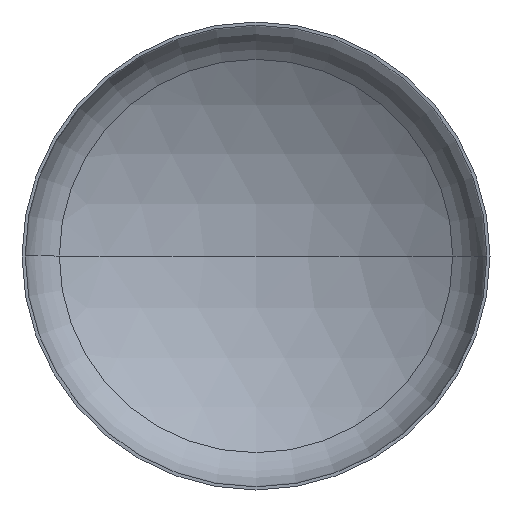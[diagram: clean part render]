
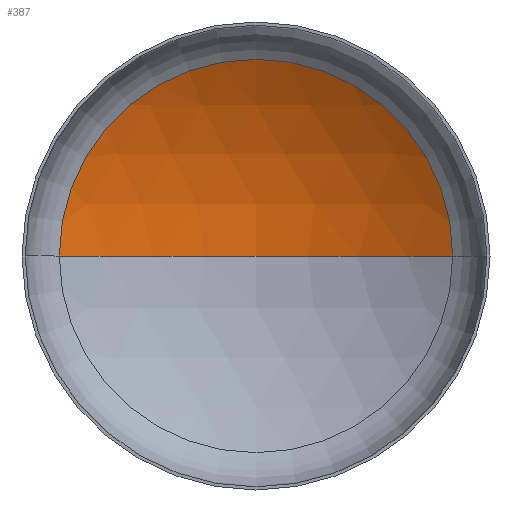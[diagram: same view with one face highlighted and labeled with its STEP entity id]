
A CAD part, front view. The second image highlights one B-rep face of the part: STEP entity #387.
In plain terms, the highlighted spherical face has radius 6400 mm.
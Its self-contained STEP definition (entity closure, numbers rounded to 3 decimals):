
#12 = VERTEX_POINT ( 'NONE', #155 ) ;
#17 = ORIENTED_EDGE ( 'NONE', *, *, #131, .F. ) ;
#58 = VERTEX_POINT ( 'NONE', #358 ) ;
#59 = DIRECTION ( 'NONE',  ( -1., 0., 0. ) ) ;
#70 = AXIS2_PLACEMENT_3D ( 'NONE', #186, #338, #206 ) ;
#74 = AXIS2_PLACEMENT_3D ( 'NONE', #276, #137, #295 ) ;
#79 = AXIS2_PLACEMENT_3D ( 'NONE', #364, #226, #388 ) ;
#93 = ORIENTED_EDGE ( 'NONE', *, *, #125, .T. ) ;
#97 = VERTEX_POINT ( 'NONE', #200 ) ;
#107 = EDGE_LOOP ( 'NONE', ( #17, #110, #93 ) ) ;
#110 = ORIENTED_EDGE ( 'NONE', *, *, #128, .T. ) ;
#125 = EDGE_CURVE ( 'NONE', #58, #97, #277, .T. ) ;
#126 = FACE_OUTER_BOUND ( 'NONE', #107, .T. ) ;
#128 = EDGE_CURVE ( 'NONE', #12, #58, #153, .T. ) ;
#131 = EDGE_CURVE ( 'NONE', #12, #97, #326, .T. ) ;
#137 = DIRECTION ( 'NONE',  ( 0., 0., -1. ) ) ;
#149 = DIRECTION ( 'NONE',  ( 0., 0., -1. ) ) ;
#153 = CIRCLE ( 'NONE', #74, 6400. ) ;
#155 = CARTESIAN_POINT ( 'NONE',  ( 0., 2120.881, 0. ) ) ;
#167 = SPHERICAL_SURFACE ( 'NONE', #362, 6400. ) ;
#186 = CARTESIAN_POINT ( 'NONE',  ( 0., -4279.119, 0. ) ) ;
#200 = CARTESIAN_POINT ( 'NONE',  ( -3362.166, 1166.599, 0. ) ) ;
#206 = DIRECTION ( 'NONE',  ( 1., 0., 0. ) ) ;
#215 = CARTESIAN_POINT ( 'NONE',  ( 0., -4279.119, 0. ) ) ;
#226 = DIRECTION ( 'NONE',  ( 0., -1., 0. ) ) ;
#276 = CARTESIAN_POINT ( 'NONE',  ( 0., -4279.119, 0. ) ) ;
#277 = CIRCLE ( 'NONE', #79, 3362.166 ) ;
#295 = DIRECTION ( 'NONE',  ( -1., 0., 0. ) ) ;
#326 = CIRCLE ( 'NONE', #70, 6400. ) ;
#338 = DIRECTION ( 'NONE',  ( 0., 0., 1. ) ) ;
#358 = CARTESIAN_POINT ( 'NONE',  ( 3362.166, 1166.599, 0. ) ) ;
#362 = AXIS2_PLACEMENT_3D ( 'NONE', #215, #149, #59 ) ;
#364 = CARTESIAN_POINT ( 'NONE',  ( 0., 1166.599, 0. ) ) ;
#387 = ADVANCED_FACE ( 'NONE', ( #126 ), #167, .F. ) ;
#388 = DIRECTION ( 'NONE',  ( 1., 0., 0. ) ) ;
